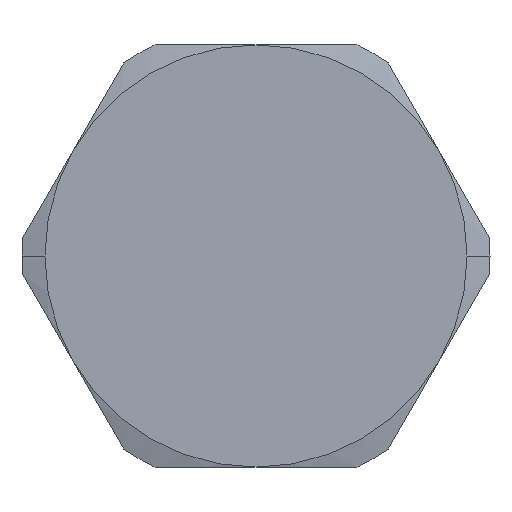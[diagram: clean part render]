
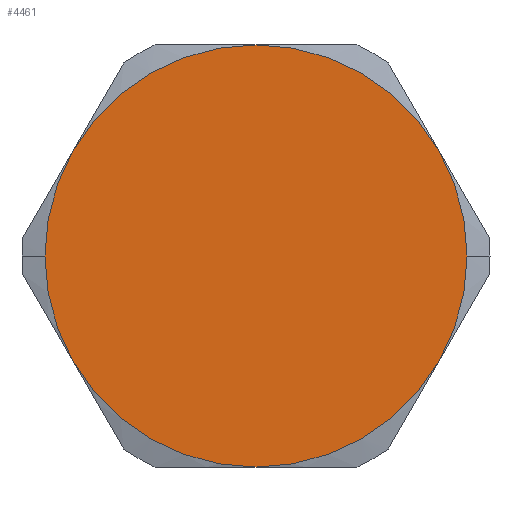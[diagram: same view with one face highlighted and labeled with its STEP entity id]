
A CAD part, left-side view. The second image highlights one B-rep face of the part: STEP entity #4461.
In plain terms, the highlighted planar face has unit normal (-1, 0, 0).
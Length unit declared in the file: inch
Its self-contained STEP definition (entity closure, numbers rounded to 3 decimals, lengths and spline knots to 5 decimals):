
#983=CARTESIAN_POINT('',(-0.251,-0.4375,0.));
#984=VERTEX_POINT('',#983);
#991=CARTESIAN_POINT('',(-0.251,-0.37889,-0.21875));
#992=VERTEX_POINT('',#991);
#993=CARTESIAN_POINT('',(-0.251,0.,0.0));
#994=DIRECTION('',(-1.0,0.0,0.0));
#995=DIRECTION('',(0.0,1.0,0.0));
#996=AXIS2_PLACEMENT_3D('',#993,#994,#995);
#997=CIRCLE('',#996,0.4375);
#998=EDGE_CURVE('',#992,#984,#997,.T.);
#1022=CARTESIAN_POINT('',(-0.251,0.4375,0.));
#1023=VERTEX_POINT('',#1022);
#1039=CARTESIAN_POINT('',(-0.251,0.37889,-0.21875));
#1040=VERTEX_POINT('',#1039);
#1054=CARTESIAN_POINT('',(-0.251,0.,0.0));
#1055=DIRECTION('',(-1.0,0.0,0.0));
#1056=DIRECTION('',(0.0,1.0,0.0));
#1057=AXIS2_PLACEMENT_3D('',#1054,#1055,#1056);
#1058=CIRCLE('',#1057,0.4375);
#1059=EDGE_CURVE('',#1023,#1040,#1058,.T.);
#4008=CARTESIAN_POINT('',(-0.251,0.,-0.4375));
#4009=VERTEX_POINT('',#4008);
#4023=CARTESIAN_POINT('',(-0.251,0.,0.0));
#4024=DIRECTION('',(-1.0,0.0,0.0));
#4025=DIRECTION('',(0.0,1.0,0.0));
#4026=AXIS2_PLACEMENT_3D('',#4023,#4024,#4025);
#4027=CIRCLE('',#4026,0.4375);
#4028=EDGE_CURVE('',#1040,#4009,#4027,.T.);
#4039=CARTESIAN_POINT('',(-0.251,0.37889,0.21875));
#4040=VERTEX_POINT('',#4039);
#4041=CARTESIAN_POINT('',(-0.251,0.,0.0));
#4042=DIRECTION('',(-1.0,0.0,0.0));
#4043=DIRECTION('',(0.0,1.0,0.0));
#4044=AXIS2_PLACEMENT_3D('',#4041,#4042,#4043);
#4045=CIRCLE('',#4044,0.4375);
#4046=EDGE_CURVE('',#4040,#1023,#4045,.T.);
#4070=CARTESIAN_POINT('',(-0.251,0.,0.4375));
#4071=VERTEX_POINT('',#4070);
#4108=CARTESIAN_POINT('',(-0.251,0.,0.0));
#4109=DIRECTION('',(-1.0,0.0,0.0));
#4110=DIRECTION('',(0.0,1.0,0.0));
#4111=AXIS2_PLACEMENT_3D('',#4108,#4109,#4110);
#4112=CIRCLE('',#4111,0.4375);
#4113=EDGE_CURVE('',#4071,#4040,#4112,.T.);
#4138=CARTESIAN_POINT('',(-0.251,-0.37889,0.21875));
#4139=VERTEX_POINT('',#4138);
#4140=CARTESIAN_POINT('',(-0.251,0.,0.0));
#4141=DIRECTION('',(-1.0,0.0,0.0));
#4142=DIRECTION('',(0.0,1.0,0.0));
#4143=AXIS2_PLACEMENT_3D('',#4140,#4141,#4142);
#4144=CIRCLE('',#4143,0.4375);
#4145=EDGE_CURVE('',#4139,#4071,#4144,.T.);
#4199=CARTESIAN_POINT('',(-0.251,0.,0.0));
#4200=DIRECTION('',(-1.0,0.0,0.0));
#4201=DIRECTION('',(0.0,1.0,0.0));
#4202=AXIS2_PLACEMENT_3D('',#4199,#4200,#4201);
#4203=CIRCLE('',#4202,0.4375);
#4204=EDGE_CURVE('',#984,#4139,#4203,.T.);
#4229=CARTESIAN_POINT('',(-0.251,0.,0.0));
#4230=DIRECTION('',(-1.0,0.0,0.0));
#4231=DIRECTION('',(0.0,1.0,0.0));
#4232=AXIS2_PLACEMENT_3D('',#4229,#4230,#4231);
#4233=CIRCLE('',#4232,0.4375);
#4234=EDGE_CURVE('',#4009,#992,#4233,.T.);
#4446=CARTESIAN_POINT('',(-0.251,0.,0.));
#4447=DIRECTION('',(-1.0,0.0,0.0));
#4448=DIRECTION('',(0.0,-1.0,0.0));
#4449=AXIS2_PLACEMENT_3D('',#4446,#4447,#4448);
#4450=PLANE('',#4449);
#4451=ORIENTED_EDGE('',*,*,#4234,.T.);
#4452=ORIENTED_EDGE('',*,*,#998,.T.);
#4453=ORIENTED_EDGE('',*,*,#4204,.T.);
#4454=ORIENTED_EDGE('',*,*,#4145,.T.);
#4455=ORIENTED_EDGE('',*,*,#4113,.T.);
#4456=ORIENTED_EDGE('',*,*,#4046,.T.);
#4457=ORIENTED_EDGE('',*,*,#1059,.T.);
#4458=ORIENTED_EDGE('',*,*,#4028,.T.);
#4459=EDGE_LOOP('',(#4451,#4452,#4453,#4454,#4455,#4456,#4457,#4458));
#4460=FACE_OUTER_BOUND('',#4459,.T.);
#4461=ADVANCED_FACE('',(#4460),#4450,.T.);
